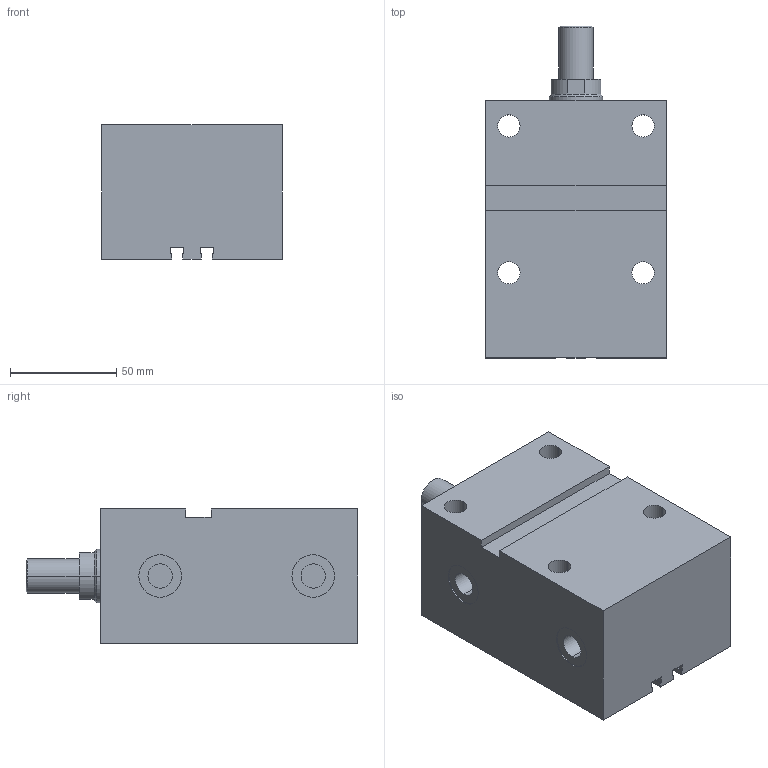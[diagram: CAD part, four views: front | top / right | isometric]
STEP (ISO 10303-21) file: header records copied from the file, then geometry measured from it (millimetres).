
FILE_DESCRIPTION (( 'STEP AP203' ), '1' );
FILE_NAME ('GERMA_Blockzylinder_701-040-050-A.STEP', '2016-07-23T10:11:03', ( '' ), ( '' ), 'SwSTEP 2.0', 'SolidWorks 2015', '' );
FILE_SCHEMA (( 'CONFIG_CONTROL_DESIGN' ));
Length unit declared in the file: millimetre
Products named in the file (3): Kolben_MT 70x-040_Kolben_MT DU.40-Hub50-AG; GERMA_Blockzylinder_701-040-050-A; GH-700-040_GH-701-040-050
Assembly tree (2 placements, depth 2):
  GERMA_Blockzylinder_701-040-050-A
    GH-700-040_GH-701-040-050
    Kolben_MT 70x-040_Kolben_MT DU.40-Hub50-AG
Bounding box: 85 x 156 x 63 mm (x, y, z)
Volume: 581572.4 mm3; surface area: 86062.1 mm2
Topology: 2 solids, 2 shells, 92 faces, 216 edges, 137 vertices
Faces by surface type: plane 43, cylinder 37, cone 12
Entity records: 2938 total; most frequent: DIRECTION 491, CARTESIAN_POINT 446, ORIENTED_EDGE 424, EDGE_CURVE 212, AXIS2_PLACEMENT_3D 182, VERTEX_POINT 137, LINE 127, VECTOR 127
